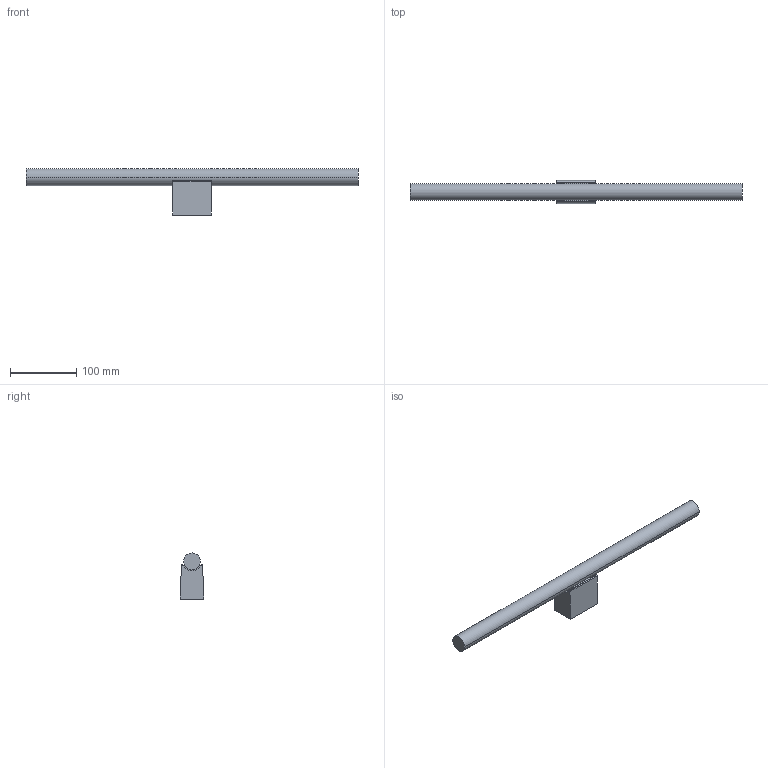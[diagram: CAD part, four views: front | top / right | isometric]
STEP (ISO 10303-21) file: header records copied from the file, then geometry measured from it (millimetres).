
FILE_DESCRIPTION(/* description */ (''),/* implementation_level */ '2;1');
FILE_NAME(/* name */ 'calma_500_walllamp.step',/* time_stamp */ '2024-12-14T23:50:28+01:00',/* author */ ('RenataManzini'),/* organization */ (''),/* preprocessor_version */ 'ST-DEVELOPER v20',/* originating_system */ 'AutoCAD Mechanical',/* authorisation */ '');
FILE_SCHEMA (('AUTOMOTIVE_DESIGN { 1 0 10303 214 3 1 1 }'));
Length unit declared in the file: millimetre
Products named in the file (2): Product; FamilyGeomCombination_724421-_3D_
Assembly tree (1 placements, depth 2):
  Product
    FamilyGeomCombination_724421-_3D_
Bounding box: 500 x 34.98 x 69.42 mm (x, y, z)
Volume: 337987.7 mm3; surface area: 56531.2 mm2
Topology: 3 solids, 3 shells, 34 faces, 75 edges, 53 vertices
Faces by surface type: cylinder 19, plane 15
Entity records: 1005 total; most frequent: DIRECTION 188, CARTESIAN_POINT 166, ORIENTED_EDGE 144, AXIS2_PLACEMENT_3D 76, EDGE_CURVE 72, VERTEX_POINT 48, CIRCLE 39, EDGE_LOOP 38
